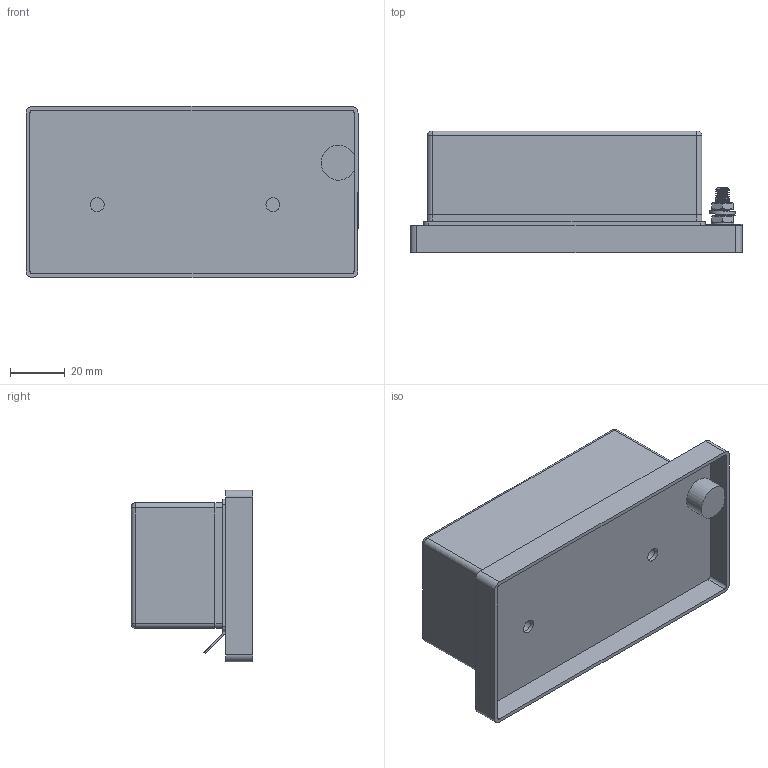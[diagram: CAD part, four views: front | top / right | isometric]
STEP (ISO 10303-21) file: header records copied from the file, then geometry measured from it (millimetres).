
FILE_DESCRIPTION(/* description */ (''),/* implementation_level */ '2;1');
FILE_NAME(/* name */ 'C:\Users\Hani\Desktop\work\BLR-I-606\BLR-I-606.stp',/* time_stamp */ '2021-07-08T11:37:17-07:00',/* author */ ('Hani'),/* organization */ (''),/* preprocessor_version */ 'ST-DEVELOPER v17',/* originating_system */ 'Autodesk Inventor 2019',/* authorisation */ '');
FILE_SCHEMA (('AUTOMOTIVE_DESIGN { 1 0 10303 214 3 1 1 }'));
Length unit declared in the file: inch
Products named in the file (10): BLR-I-604; Base; BLR-I-604-Block; terminal; BLR-604-Cover; plate; M5 Bolt; washer; M5 Lock Washer; M5 Nut
Assembly tree (15 placements, depth 2):
  BLR-I-604
    Base
    BLR-I-604-Block
    terminal  x6
    BLR-604-Cover
    plate
    M5 Bolt
    washer
    M5 Nut  x2
    M5 Lock Washer
Bounding box: 120.9 x 44.25 x 62.48 mm (x, y, z)
Volume: 96265.1 mm3; surface area: 67284 mm2
Topology: 15 solids, 15 shells, 783 faces, 2097 edges, 1383 vertices
Faces by surface type: plane 422, bspline 174, cylinder 153, cone 20, sphere 10, torus 4
Full cylindrical faces by diameter (mm): 1.905 x6, 2.54 x6, 3.961 x23, 5 x25, 5.08 x7, 8.255 x1, 9.779 x2
Entity records: 28782 total; most frequent: CARTESIAN_POINT 12686, ORIENTED_EDGE 3632, DIRECTION 2588, EDGE_CURVE 1816, VERTEX_POINT 1203, LINE 1162, VECTOR 1162, EDGE_LOOP 739
